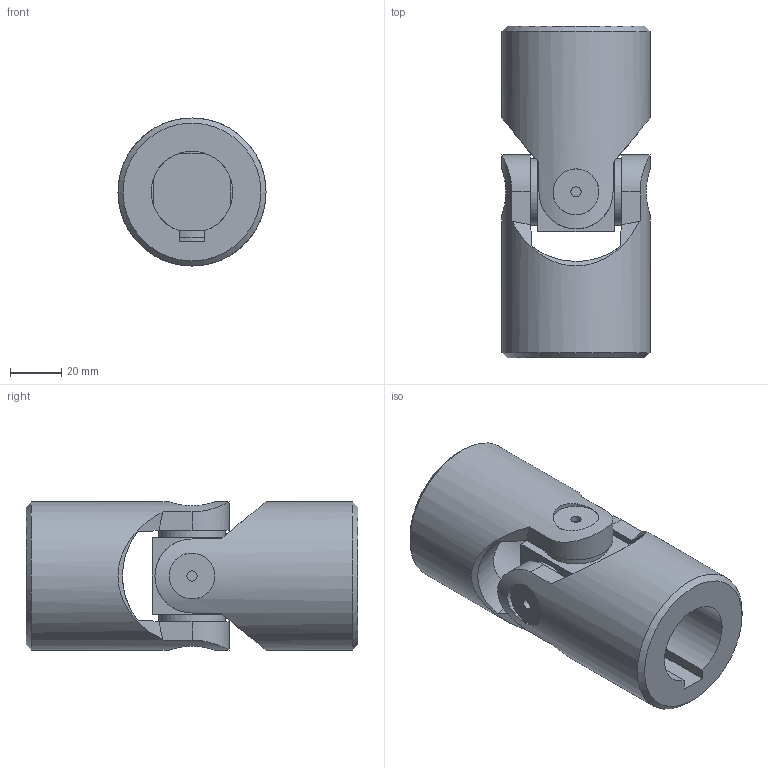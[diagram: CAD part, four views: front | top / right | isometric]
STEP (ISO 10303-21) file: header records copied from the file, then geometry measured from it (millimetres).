
FILE_DESCRIPTION(/* description */ (''),/* implementation_level */ '2;1');
FILE_NAME(/* name */ '\\SRV2016\Societa\Stefano\Disegni 3D\Dis. Clienti\0000Catalogo 3D\01Singoli G-GB\6G1-1C_SG0S321C.stp',/* time_stamp */ '2021-11-10T11:17:42+01:00',/* author */ ('acquisti'),/* organization */ (''),/* preprocessor_version */ 'ST-DEVELOPER v15.6',/* originating_system */ 'Autodesk Inventor 2015',/* authorisation */ '');
FILE_SCHEMA (('AUTOMOTIVE_DESIGN { 1 0 10303 214 3 1 1 }'));
Length unit declared in the file: millimetre
Products named in the file (4): 6G SFE; 6G1 MOS; 6G1 MOC; Assieme1
Assembly tree (3 placements, depth 2):
  Assieme1
    6G SFE
    6G1 MOS
    6G1 MOC
Bounding box: 58 x 130 x 58 mm (x, y, z)
Volume: 219384.1 mm3; surface area: 47088.5 mm2
Topology: 3 solids, 3 shells, 71 faces, 170 edges, 115 vertices
Faces by surface type: plane 39, cylinder 20, cone 10, torus 2
Full cylindrical faces by diameter (mm): 4 x4, 18 x4, 26 x4, 32 x1, 58 x2
Entity records: 2471 total; most frequent: CARTESIAN_POINT 873, DIRECTION 303, ORIENTED_EDGE 300, EDGE_CURVE 150, AXIS2_PLACEMENT_3D 130, VERTEX_POINT 114, EDGE_LOOP 104, FACE_OUTER_BOUND 71
